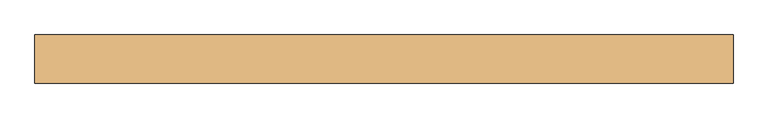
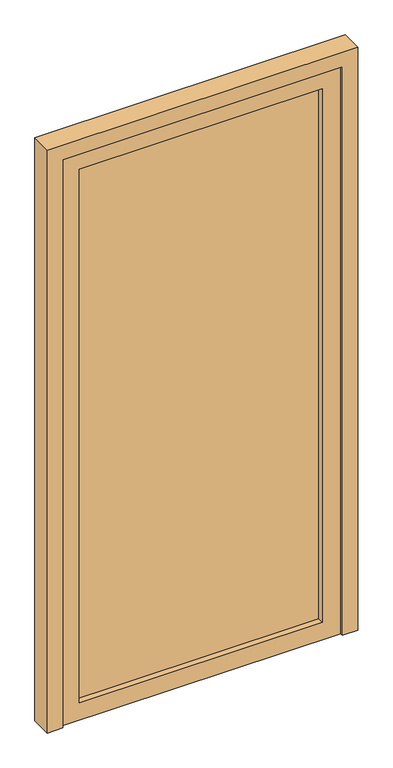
"""IFC4 building model written with IfcOpenShell, lengths in millimetres: door geometry, Simple Vitrée 1 : Simple Vitrée."""

from ifc_helpers import new_model, si_unit, frame, origin, place, context, project, spatial, polyline, outline, extrude, source, transform, mapped, element, save


def door_4b58bff7(model_context):
    return source(origin(), model_context, "Body", "SweptSolid", [
        extrude(outline(polyline([(0.0, -503.4861387), (0.0, -453.4861387), (1950.0, -453.4861387), (1950.0, 453.4861387), (0.0, 453.4861387), (0.0, 503.4861387), (2000.0, 503.4861387), (2000.0, -503.4861387), (0.0, -503.4861387)])), frame((0.0, -25.0, 0.0), z_axis=(0.0, 1.0, 0.0), x_axis=(0.0, 0.0, 1.0)), (0.0, 0.0, 1.0), 70.0),
        extrude(outline(polyline([(393.4861387, 5.0), (-393.4861387, 5.0), (-393.4861387, 15.0), (393.4861387, 15.0), (393.4861387, 5.0)])), frame((0.0, 0.0, 60.0), z_axis=(0.0, 0.0, 1.0), x_axis=(1.0, 0.0, 0.0)), (0.0, 0.0, 1.0), 1830.0),
        extrude(outline(polyline([(1950.0, 453.4861387), (1950.0, -453.4861387), (0.0, -453.4861387), (0.0, 453.4861387), (1950.0, 453.4861387)]), holes=[polyline([(1890.0, 393.4861387), (60.0, 393.4861387), (60.0, -393.4861387), (1890.0, -393.4861387), (1890.0, 393.4861387)])]), frame((0.0, -15.0, 0.0), z_axis=(0.0, 1.0, 0.0), x_axis=(0.0, 0.0, 1.0)), (0.0, 0.0, 1.0), 50.0),
    ])


if __name__ == "__main__":
    model = new_model("IFC4")
    model_context = context("Model", 3, world=origin())
    ifc_project = project(units=[si_unit("LENGTHUNIT", "METRE", prefix="MILLI")], contexts=[model_context])
    site = spatial("IfcSite", under=ifc_project)
    building = spatial("IfcBuilding", under=site)
    placement = place(None, origin())
    door_shape = door_4b58bff7(model_context)
    element("IfcDoor", 1, ObjectType="Simple Vitrée 1 : Simple Vitrée", at=placement, inside=building, context=model_context, shape_type="MappedRepresentation", body=[
        mapped(door_shape, transform((0.0, 0.0, 0.0), x_axis=(1.0, 0.0, 0.0), y_axis=(0.0, 1.0, 0.0), z_axis=(0.0, 0.0, 1.0))),
    ])
    save(model, "model.ifc")
